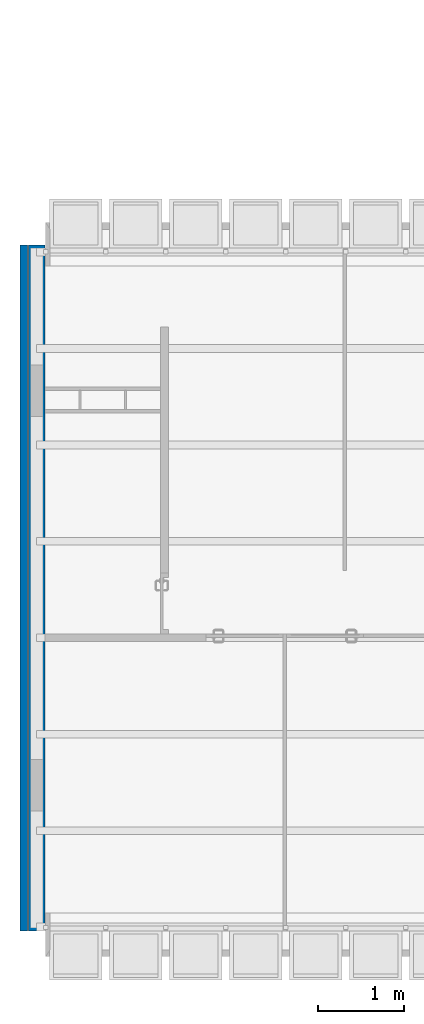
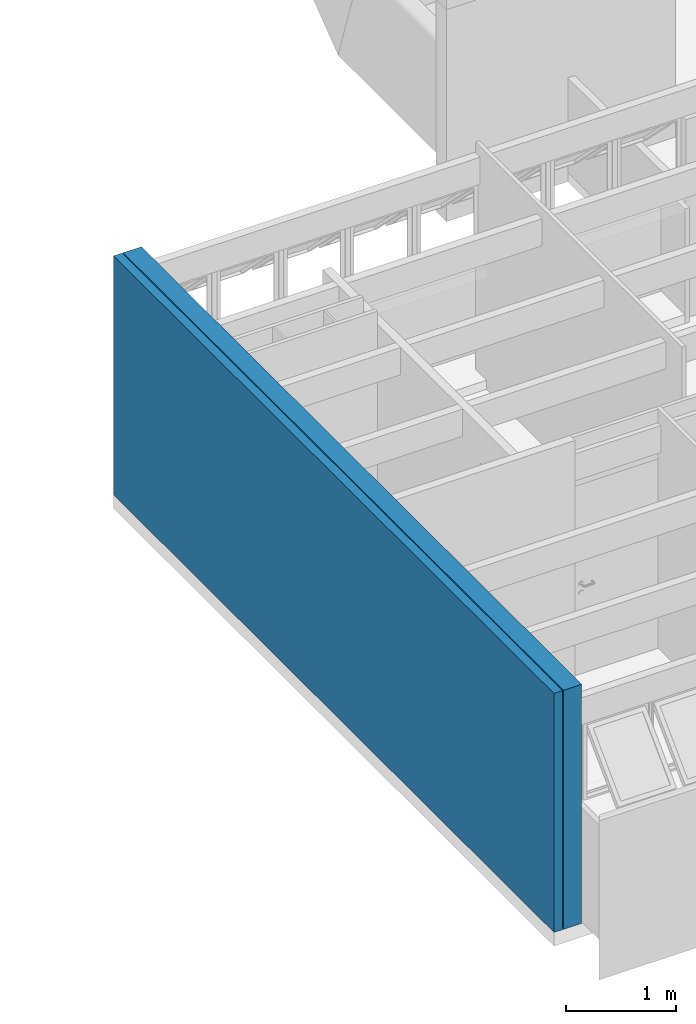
# One storey, part 6 of 38: 2 walls.
"""IFC2X3 building model written with IfcOpenShell, lengths in millimetres."""

from ifc_helpers import new_model, entity, si_unit, converted_unit, derived_unit, money_unit, direction, frame, origin_with_axes, place, context, subcontext, project, spatial, polyline, outline, extrude, material, layer, layer_set, layer_usage, type_object, element, save


model = new_model("IFC2X3")

# Units and contexts
model_context = context("Model", 3, precision=0.01, world=origin_with_axes(), true_north=direction((0.0, 1.0)))
body_context = subcontext(model_context, "Body", "Model", "MODEL_VIEW")
ifc_project = project(units=[si_unit("LENGTHUNIT", "METRE", prefix="MILLI"), si_unit("AREAUNIT", "SQUARE_METRE"), si_unit("VOLUMEUNIT", "CUBIC_METRE"), converted_unit("PLANEANGLEUNIT", "DEGREE", entity("IfcPlaneAngleMeasure", 0.0174532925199), si_unit("PLANEANGLEUNIT", "RADIAN"), dimensions=[0, 0, 0, 0, 0, 0, 0]), money_unit("USD"), converted_unit("TIMEUNIT", "Year", entity("IfcTimeMeasure", 31556926.0), si_unit("TIMEUNIT", "SECOND"), dimensions=[0, 0, 1, 0, 0, 0, 0]), si_unit("MASSUNIT", "GRAM", prefix="KILO"), si_unit("THERMODYNAMICTEMPERATUREUNIT", "DEGREE_CELSIUS"), si_unit("LUMINOUSINTENSITYUNIT", "LUMEN"), si_unit("ENERGYUNIT", "JOULE", prefix="MEGA"), derived_unit("THERMALCONDUCTANCEUNIT", [(si_unit("POWERUNIT", "WATT"), 1), (si_unit("LENGTHUNIT", "METRE"), -1), (si_unit("THERMODYNAMICTEMPERATUREUNIT", "KELVIN"), -1)]), derived_unit("SPECIFICHEATCAPACITYUNIT", [(si_unit("ENERGYUNIT", "JOULE"), 1), (si_unit("MASSUNIT", "GRAM", prefix="KILO"), -1), (si_unit("THERMODYNAMICTEMPERATUREUNIT", "KELVIN"), -1)]), derived_unit("MASSDENSITYUNIT", [(si_unit("MASSUNIT", "GRAM", prefix="KILO"), 1), (si_unit("VOLUMEUNIT", "CUBIC_METRE"), -1)])], contexts=[model_context])

# Site, building, storey
site_placement = place(None, origin_with_axes())
site = spatial("IfcSite", under=ifc_project, at=site_placement, Name="Local", CompositionType="ELEMENT")
building_placement = place(site_placement, origin_with_axes())
building = spatial("IfcBuilding", under=site, at=building_placement, Name="Construção", CompositionType="ELEMENT")
storey_placement = place(building_placement, frame((0.0, 0.0, 2650.0), z_axis=(0.0, 0.0, 1.0), x_axis=(1.0, 0.0, 0.0)))
storey = spatial("IfcBuildingStorey", under=building, at=storey_placement, Name="Segundo Pavimento", CompositionType="ELEMENT", Elevation=2650.0)

# Walls
ifc_material = material(Name="GENÉRICO - VEDAÇÃO EXTERNA")
ifc_layer_1 = layer(ifc_material, 190.0, ventilated="UNKNOWN")
ifc_layer_set_1 = layer_set([ifc_layer_1], Name="GENÉRICO - VEDAÇÃO EXTERNA 190")
ifc_layer_usage_1 = layer_usage(ifc_layer_set_1, "AXIS2", "NEGATIVE", 0.0)
wall_type_1 = type_object("IfcWallType", Name="GENÉRICO - VEDAÇÃO EXTERNA 190", PredefinedType="NOTDEFINED")
wall_1_placement = place(storey_placement, frame((290.0, 8300.0, 0.0), z_axis=(0.0, 0.0, 1.0), x_axis=(0.0, -1.0, 0.0)))
element("IfcWallStandardCase", 1, at=wall_1_placement, inside=storey, type_object=wall_type_1, material=ifc_layer_usage_1, Name="APTO5-PAREDE-013", context=body_context, shape_type="SweptSolid", body=[
    extrude(outline(polyline([(0.0, -190.0), (8000.0, -190.0), (8000.0, 0.0), (0.0, 0.0), (0.0, -190.0)])), origin_with_axes(), (0.0, 0.0, 1.0), 2650.0),
])
ifc_layer_2 = layer(ifc_material, 90.0, ventilated="UNKNOWN")
ifc_layer_set_2 = layer_set([ifc_layer_2], Name="GENÉRICO - VEDAÇÃO EXTERNA 90")
ifc_layer_usage_2 = layer_usage(ifc_layer_set_2, "AXIS2", "NEGATIVE", 0.0)
wall_type_2 = type_object("IfcWallType", Name="GENÉRICO - VEDAÇÃO EXTERNA 90", PredefinedType="NOTDEFINED")
wall_2_placement = place(storey_placement, frame((90.0, 8300.0, 0.0), z_axis=(0.0, 0.0, 1.0), x_axis=(0.0, -1.0, 0.0)))
element("IfcWallStandardCase", 2, at=wall_2_placement, inside=storey, type_object=wall_type_2, material=ifc_layer_usage_2, Name="APTO5-PAREDE-014", context=body_context, shape_type="SweptSolid", body=[
    extrude(outline(polyline([(0.0, -90.0), (8000.0, -90.0), (8000.0, 0.0), (0.0, 0.0), (0.0, -90.0)])), origin_with_axes(), (0.0, 0.0, 1.0), 2650.0),
])

save(model, "model.ifc")
